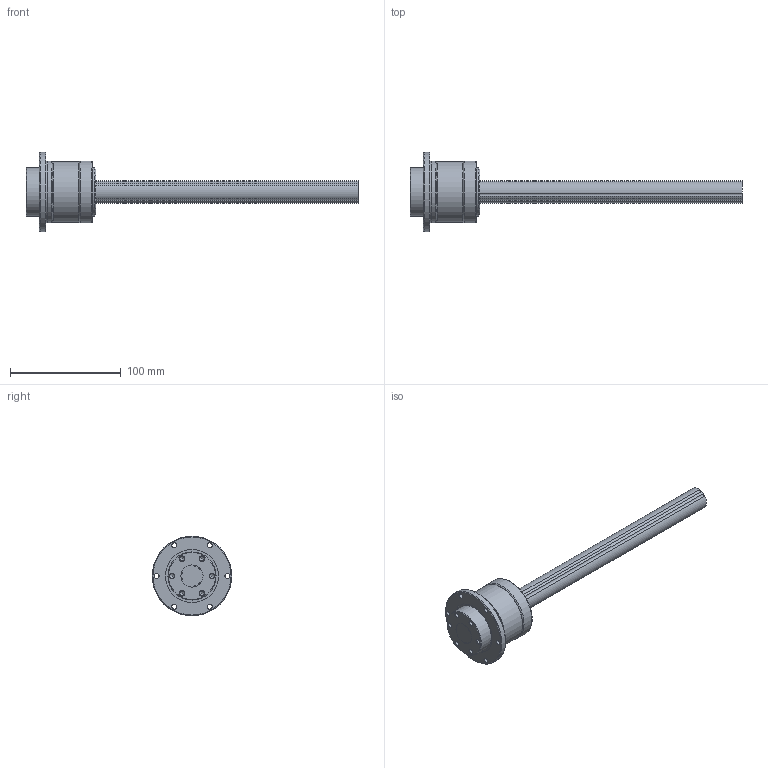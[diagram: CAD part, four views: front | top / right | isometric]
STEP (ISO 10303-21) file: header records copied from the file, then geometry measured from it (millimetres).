
FILE_DESCRIPTION(/* description */ ('STEP AP214'),/* implementation_level */ '2;1');
FILE_NAME(/* name */ 'LTR20+300L(00-)',/* time_stamp */ '2024-09-04T12:25:12+02:00',/* author */ ('License CC BY-ND 4.0'),/* organization */ ('CADENAS'),/* preprocessor_version */ 'ST-DEVELOPER v19.3',/* originating_system */ 'PARTsolutions',/* authorisation */ ' ');
FILE_SCHEMA (('AUTOMOTIVE_DESIGN {1 0 10303 214 3 1 1}'));
Length unit declared in the file: millimetre
Products named in the file (3): LTR20+300L(00-); LTR 20300 CTLTR Shaft; LTR 20 CTLTR Cyl
Assembly tree (3 placements, depth 2):
  LTR20+300L(00-)
    LTR 20300 CTLTR Shaft
    LTR 20 CTLTR Cyl  x2
Bounding box: 300 x 72 x 72 mm (x, y, z)
Volume: 340168.3 mm3; surface area: 69713.6 mm2
Topology: 3 solids, 3 shells, 120 faces, 280 edges, 180 vertices
Faces by surface type: cylinder 58, cone 36, plane 20, torus 6
Full cylindrical faces by diameter (mm): 4.134 x12, 4.5 x12, 20 x2, 43.5 x4, 47.85 x2, 50.4 x2, 55 x2, 55.4 x2, 56 x4, 56.4 x2, 72 x2
Entity records: 1699 total; most frequent: DIRECTION 320, CARTESIAN_POINT 255, ORIENTED_EDGE 190, AXIS2_PLACEMENT_3D 154, FACE_BOUND 138, EDGE_LOOP 132, EDGE_CURVE 95, VERTEX_POINT 89
